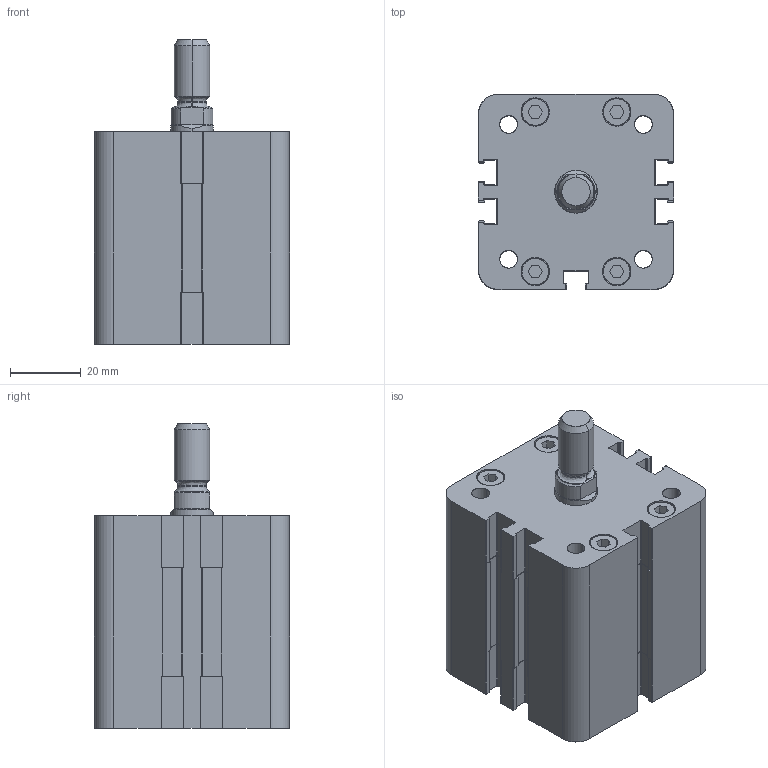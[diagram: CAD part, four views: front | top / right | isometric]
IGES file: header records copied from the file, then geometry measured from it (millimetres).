
Start section: SolidWorks IGES file using analytic representation for surfaces
Global section: file name: K:\Disegni Esecutivi\Cilindri\2_DISEGNI_cilindri_in_produzione\CILINDRO_ISO_21287\seconda versione cilindro 21287\2_CIL40\complessivi_W_40\W_40_PIENI\WBM040_PIENO\WBM0400015A.igs; native system: SolidWorks 2011; preprocessor: SolidWorks 2011; author: Cad01; date: 120803.165903; units: millimetre
Bounding box: 55 x 55 x 85.9 mm (x, y, z)
Surface area: 29247.7 mm2 (no closed solid volume)
Topology: 0 solids, 0 shells, 412 faces, 4604 edges, 4604 vertices
Faces by surface type: bspline 212, revolution 200
